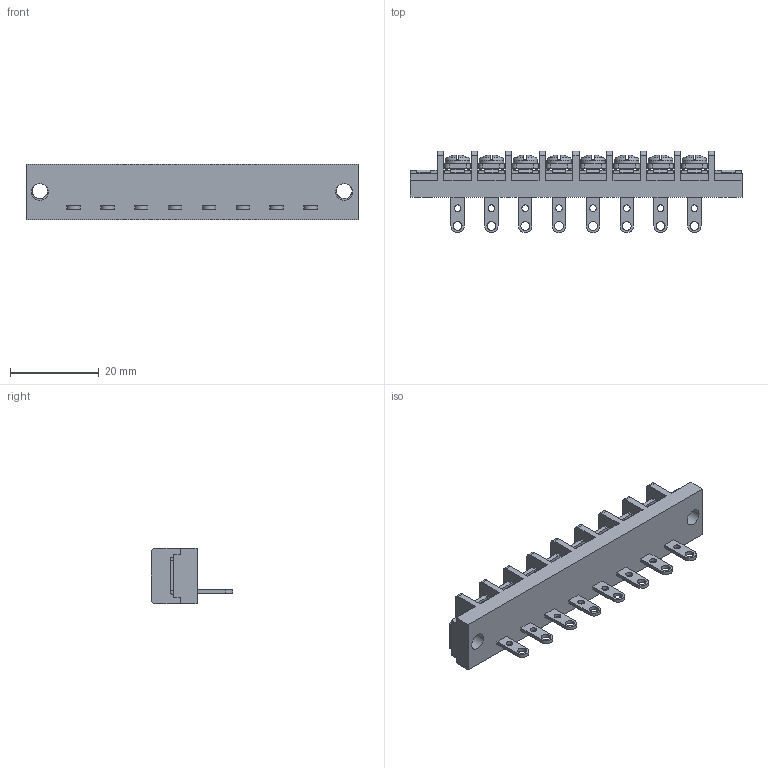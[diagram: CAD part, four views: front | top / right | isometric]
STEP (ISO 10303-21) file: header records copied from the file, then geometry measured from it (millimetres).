
FILE_DESCRIPTION(/* description */ ('Alibre Inc.'),/* implementation_level */ '2;1');
FILE_NAME(/* name */ 'export0',/* time_stamp */ '2015-10-26T18:05:53+09:00',/* author */ (''),/* organization */ (''),/* preprocessor_version */ 'ST-DEVELOPER v14',/* originating_system */ 'Alibre',/* authorisation */ '');
FILE_SCHEMA (('CONFIG_CONTROL_DESIGN'));
Length unit declared in the file: centimetre
Products named in the file (1): ID_1
Bounding box: 74.78 x 18.3 x 12.5 mm (x, y, z)
Volume: 6469.2 mm3; surface area: 6113.6 mm2
Topology: 1 solids, 17 shells, 1236 faces, 3368 edges, 2220 vertices
Faces by surface type: plane 946, cylinder 122, bspline 104, cone 32, torus 16, sphere 16
Full cylindrical faces by diameter (mm): 1.5 x8, 2 x8, 3 x8, 3.5 x2, 3.8 x2, 5.5 x8
Entity records: 37025 total; most frequent: CARTESIAN_POINT 8197, ORIENTED_EDGE 6560, DIRECTION 4550, EDGE_CURVE 3280, VECTOR 2336, LINE 2336, VERTEX_POINT 2184, AXIS2_PLACEMENT_3D 1533
